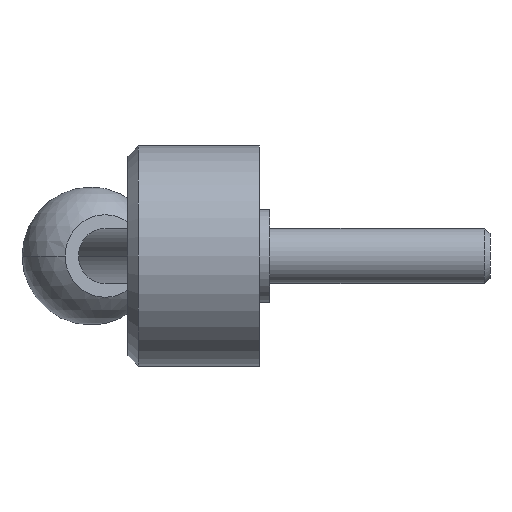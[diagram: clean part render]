
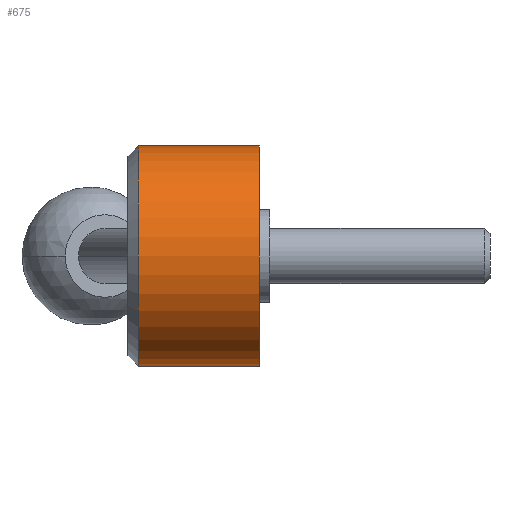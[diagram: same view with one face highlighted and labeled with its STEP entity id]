
A CAD part, left-side view. The second image highlights one B-rep face of the part: STEP entity #675.
In plain terms, the highlighted cylindrical face has radius 16 mm (diameter 32 mm), a partial arc.
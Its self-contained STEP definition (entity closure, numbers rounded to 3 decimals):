
#15 = VECTOR ( 'NONE', #573, 1000. ) ;
#30 = LINE ( 'NONE', #638, #15 ) ;
#56 = EDGE_CURVE ( 'NONE', #511, #601, #102, .T. ) ;
#102 = CIRCLE ( 'NONE', #169, 16. ) ;
#125 = CARTESIAN_POINT ( 'NONE',  ( 0., 0., 0. ) ) ;
#155 = EDGE_CURVE ( 'NONE', #475, #508, #282, .T. ) ;
#169 = AXIS2_PLACEMENT_3D ( 'NONE', #125, #396, #800 ) ;
#174 = ORIENTED_EDGE ( 'NONE', *, *, #56, .F. ) ;
#179 = LINE ( 'NONE', #330, #280 ) ;
#181 = CARTESIAN_POINT ( 'NONE',  ( 0., 0., -16. ) ) ;
#184 = EDGE_CURVE ( 'NONE', #475, #511, #30, .T. ) ;
#201 = AXIS2_PLACEMENT_3D ( 'NONE', #427, #645, #772 ) ;
#237 = CARTESIAN_POINT ( 'NONE',  ( 0., 0., 16. ) ) ;
#253 = EDGE_LOOP ( 'NONE', ( #603, #260, #614, #174 ) ) ;
#260 = ORIENTED_EDGE ( 'NONE', *, *, #155, .T. ) ;
#280 = VECTOR ( 'NONE', #611, 1000. ) ;
#282 = CIRCLE ( 'NONE', #344, 16. ) ;
#294 = DIRECTION ( 'NONE',  ( 0., 0., 1. ) ) ;
#330 = CARTESIAN_POINT ( 'NONE',  ( 0., 0., -16. ) ) ;
#344 = AXIS2_PLACEMENT_3D ( 'NONE', #576, #358, #294 ) ;
#345 = EDGE_CURVE ( 'NONE', #508, #601, #179, .T. ) ;
#358 = DIRECTION ( 'NONE',  ( 0., -1., 0. ) ) ;
#396 = DIRECTION ( 'NONE',  ( 0., -1., 0. ) ) ;
#427 = CARTESIAN_POINT ( 'NONE',  ( 0., 0., 0. ) ) ;
#475 = VERTEX_POINT ( 'NONE', #575 ) ;
#491 = FACE_OUTER_BOUND ( 'NONE', #253, .T. ) ;
#507 = CARTESIAN_POINT ( 'NONE',  ( 0., 17.6, -16. ) ) ;
#508 = VERTEX_POINT ( 'NONE', #507 ) ;
#511 = VERTEX_POINT ( 'NONE', #237 ) ;
#573 = DIRECTION ( 'NONE',  ( 0., -1., 0. ) ) ;
#575 = CARTESIAN_POINT ( 'NONE',  ( 0., 17.6, 16. ) ) ;
#576 = CARTESIAN_POINT ( 'NONE',  ( 0., 17.6, 0. ) ) ;
#601 = VERTEX_POINT ( 'NONE', #181 ) ;
#603 = ORIENTED_EDGE ( 'NONE', *, *, #184, .F. ) ;
#611 = DIRECTION ( 'NONE',  ( 0., -1., 0. ) ) ;
#614 = ORIENTED_EDGE ( 'NONE', *, *, #345, .T. ) ;
#638 = CARTESIAN_POINT ( 'NONE',  ( 0., 0., 16. ) ) ;
#645 = DIRECTION ( 'NONE',  ( 0., -1., 0. ) ) ;
#675 = ADVANCED_FACE ( 'NONE', ( #491 ), #769, .T. ) ;
#769 = CYLINDRICAL_SURFACE ( 'NONE', #201, 16. ) ;
#772 = DIRECTION ( 'NONE',  ( 0., 0., -1. ) ) ;
#800 = DIRECTION ( 'NONE',  ( 0., 0., -1. ) ) ;
